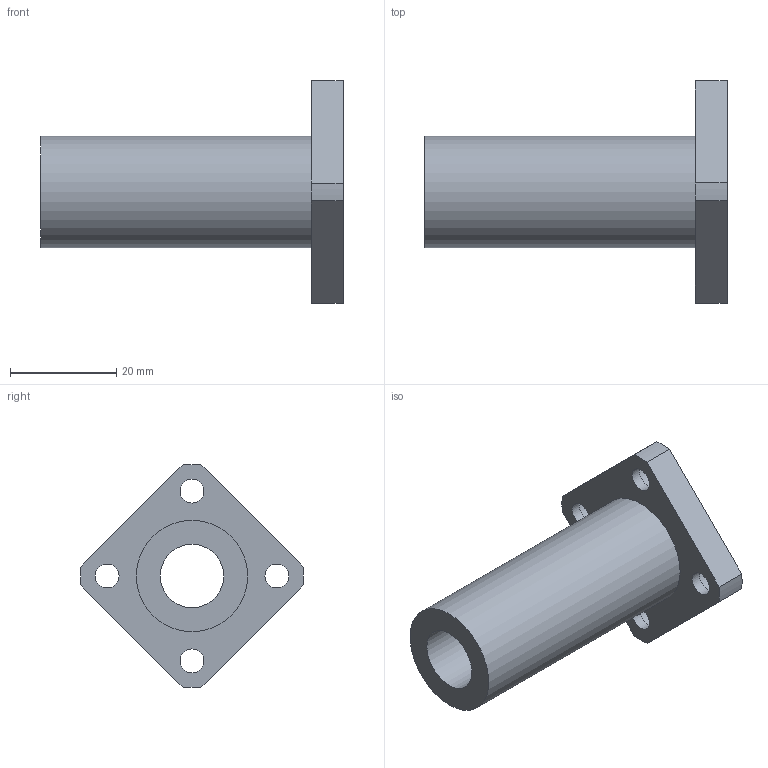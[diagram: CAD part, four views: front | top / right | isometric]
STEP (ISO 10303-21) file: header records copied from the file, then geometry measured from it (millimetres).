
FILE_DESCRIPTION(/* description */ ('Unknown'),/* implementation_level */ '2;1');
FILE_NAME(/* name */ 'LMK12LUU',/* time_stamp */ '2025-02-04T10:39:38+08:00',/* author */ ('Unknown'),/* organization */ ('Unknown'),/* preprocessor_version */ 'ST-DEVELOPER v18.102',/* originating_system */ 'Solid Edge',/* authorisation */ 'Unknown');
FILE_SCHEMA (('AUTOMOTIVE_DESIGN {1 0 10303 214 3 1 1}'));
Length unit declared in the file: millimetre
Products named in the file (1): LMK12LUU
Bounding box: 57 x 41.98 x 41.98 mm (x, y, z)
Volume: 16451.1 mm3; surface area: 8414.5 mm2
Topology: 1 solids, 1 shells, 25 faces, 54 edges, 36 vertices
Faces by surface type: cylinder 14, plane 11
Full cylindrical faces by diameter (mm): 4.5 x4, 7.5 x4, 12 x1, 21 x1
Entity records: 696 total; most frequent: DIRECTION 124, CARTESIAN_POINT 106, ORIENTED_EDGE 88, AXIS2_PLACEMENT_3D 54, EDGE_LOOP 50, FACE_BOUND 50, EDGE_CURVE 44, VERTEX_POINT 36
